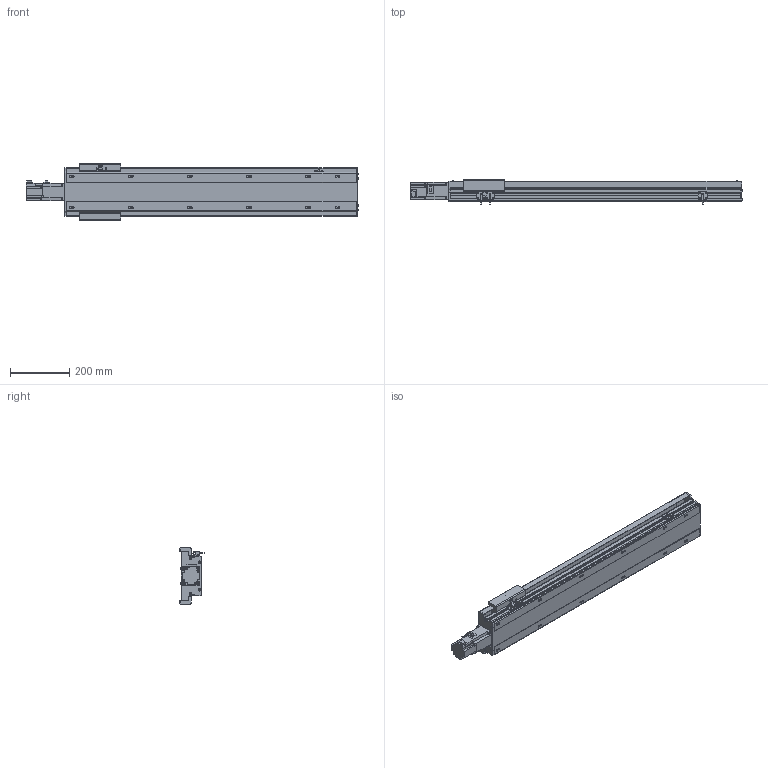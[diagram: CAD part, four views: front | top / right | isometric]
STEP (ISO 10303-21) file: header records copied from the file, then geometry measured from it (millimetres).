
FILE_DESCRIPTION(/* description */ ('STEP AP214'),/* implementation_level */ '2;1');
FILE_NAME(/* name */ 'PSM140-L10-S750-BC-T40-C1-N(0)',/* time_stamp */ '2022-06-13T03:19:42+02:00',/* author */ ('License CC BY-ND 4.0'),/* organization */ ('CADENAS'),/* preprocessor_version */ 'ST-DEVELOPER v18.102',/* originating_system */ 'PARTsolutions',/* authorisation */ ' ');
FILE_SCHEMA (('AUTOMOTIVE_DESIGN {1 0 10303 214 3 1 1}'));
Length unit declared in the file: millimetre
Products named in the file (7): PSM140-L10-S750-BC-T40-C1-N(0); PSM-Sensor; PSM140-S750-992.5; T40-p1; PSM140_body3; PSM140-S750_body1; PSM140-L10-S750-BC-T40-C1-N(0)_dummy
Assembly tree (10 placements, depth 2):
  PSM140-L10-S750-BC-T40-C1-N(0)
    PSM-Sensor  x3
    PSM140-S750-992.5  x3
    T40-p1
    PSM140_body3
    PSM140-S750_body1
    PSM140-L10-S750-BC-T40-C1-N(0)_dummy
Bounding box: 1123.7 x 81.3 x 190 mm (x, y, z)
Volume: 4801161.7 mm3; surface area: 1023265.2 mm2
Topology: 9 solids, 9 shells, 960 faces, 2541 edges, 1652 vertices
Faces by surface type: plane 628, cylinder 258, cone 60, torus 14
Full cylindrical faces by diameter (mm): 2.8 x3, 4.5 x12, 4.6 x3, 4.917 x20, 5.5 x7, 5.7 x6, 6 x2, 7 x20, 8 x8, 8.5 x4, 10.5 x12, 14 x1, 50 x1
Entity records: 24517 total; most frequent: CARTESIAN_POINT 4410, DIRECTION 4133, ORIENTED_EDGE 3890, EDGE_CURVE 1945, AXIS2_PLACEMENT_3D 1383, LINE 1367, VECTOR 1367, VERTEX_POINT 1366
